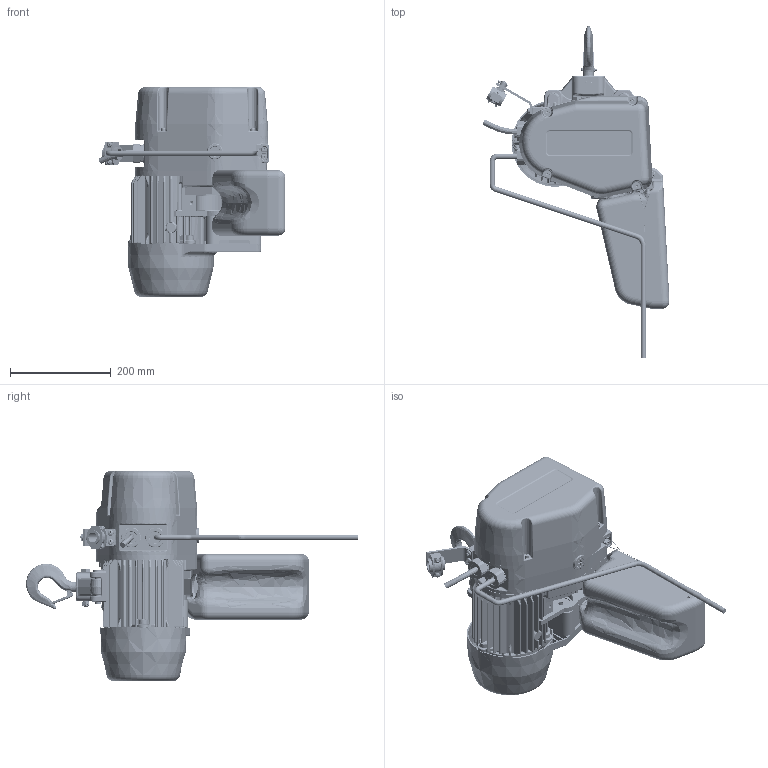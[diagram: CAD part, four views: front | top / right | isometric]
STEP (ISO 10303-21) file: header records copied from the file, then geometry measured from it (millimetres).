
FILE_DESCRIPTION (( 'STEP AP214' ), '1' );
FILE_NAME ('EQ005.STEP', '2025-06-20T19:54:28', ( '' ), ( '' ), 'SwSTEP 2.0', 'SolidWorks 2024', '' );
FILE_SCHEMA (( 'AUTOMOTIVE_DESIGN' ));
Length unit declared in the file: millimetre
Products named in the file (45): J1BG10601010_M6X10X10; ER1BS95412_ﾃﾞﾌｫﾙﾄ; ER1BS9135; Pwer suply cable(ECH)-X_ﾃﾞﾌｫﾙﾄ; body500kg-2012-0903_コネクター引っかかり対策; EQ1CI9401_ﾃﾞﾌｫﾙﾄ; E4YS005-98222-0-HSM_ﾃﾞﾌｫﾙﾄ; E2YS005-9116; EQ1CI90281_1°; ER2CS90021-0_ﾃﾞﾌｫﾙﾄ; chain backet2011018_ﾃﾞﾌｫﾙﾄ; EQ1CI1013_ウエフック向き変更; EQ1CI2104_ﾃﾞﾌｫﾙﾄ; E2YS005-9109; CableHolder-X_ﾃﾞﾌｫﾙﾄ; ER2CS90011-æfì▐-Æbæó_鋳造; 9012708_9012708; J1PW01-025018_J1PW01-025018; E3ES002-95412-2-HSM_ﾃﾞﾌｫﾙﾄ; J1AA4-5002020_J1AA4-5002020; ER1BS9003; ECP5924AD1-0-X_ﾃﾞﾌｫﾙﾄ; pan cross head_am_B18.6.7M - M6 x 1.0 x 16 Type I Cross Recessed PHMS --16N; torque nut 01_iso_ISO 7040-M8-N; J1BE1-0809028_B18.3.1M - 8 x 1.25 x 90 Hex SHCS -- 28CHX; N6TA100E91251-0_ﾃﾞﾌｫﾙﾄ; ECP5924AQ1_ﾃﾞﾌｫﾙﾄ; ECP6912AA1-1-X_ﾃﾞﾌｫﾙﾄ; code (ECH)-X__500_ﾃﾞﾌｫﾙﾄ; toothed lock washer_b_jis_J1WH012-10050; E5FE003S9111; Push bottan_ﾃﾞﾌｫﾙﾄ; ECP5924AB1-0-X_ﾃﾞﾌｫﾙﾄ; E4YS005-28223-0-HSM_ﾃﾞﾌｫﾙﾄ; ISO 1234-1.6x8-C_ISO 1234-1.6x8-C; stop(ECH)-X__500_ﾃﾞﾌｫﾙﾄ; C2BA005-90744; hexagon socket head cap screw_jis_JIS B 1176 M5 x 10 (10) --N; EQ005; EQ1CI9110_コネクター引っかかり対策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
Assembly tree (64 placements, depth 3):
  EQ005
    body500kg-2012-0903_コネクター引っかかり対策
    CableHolder-X_ﾃﾞﾌｫﾙﾄ  x2
      ECP5924AB1-0-X_ﾃﾞﾌｫﾙﾄ
      ECP5924AQ1_ﾃﾞﾌｫﾙﾄ
      ECP5924AA1-0-X_ﾃﾞﾌｫﾙﾄ
      ECP5924AD1-0-X_ﾃﾞﾌｫﾙﾄ
      ECP6912AA1-1-X_ﾃﾞﾌｫﾙﾄ
    EQ1CI9110_コネクター引っかかり対策
    Pwer suply cable(ECH)-X_ﾃﾞﾌｫﾙﾄ
    Push bottan_ﾃﾞﾌｫﾙﾄ
      code (ECH)-X__500_ﾃﾞﾌｫﾙﾄ
      stop(ECH)-X__500_ﾃﾞﾌｫﾙﾄ
    EQ1CI9107_ﾃﾞﾌｫﾙﾄ
    EQ1CI2104_ﾃﾞﾌｫﾙﾄ
    chain backet2011018_ﾃﾞﾌｫﾙﾄ
      EQ1CI9401_ﾃﾞﾌｫﾙﾄ
    ER1BS95412_ﾃﾞﾌｫﾙﾄ
    E4YS005-28223-0-HSM_ﾃﾞﾌｫﾙﾄ
      E4YS005-98222-0-HSM_ﾃﾞﾌｫﾙﾄ
      E3ES002-95412-2-HSM_ﾃﾞﾌｫﾙﾄ
      9012708_9012708  x2
      N6TA100E91251-0_ﾃﾞﾌｫﾙﾄ
      J1AA4-5002020_J1AA4-5002020  x2
      ISO 1234-1.6x8-C_ISO 1234-1.6x8-C
    EQ1CI1013_ウエフック向き変更
      EQ1CI90281_1°
      ER2CS90011-æfì▐-Æbæó_鋳造
      ER2CS90021-0_ﾃﾞﾌｫﾙﾄ
      ER1CS9032
      J1NL001-10100_J1NL001-10100
      ER1BS9003
      C2BA005-90744
      J1PW01-025018_J1PW01-025018
    toothed lock washer_b_jis_J1WH012-10050  x8
    hexagon socket head cap screw_jis_JIS B 1176 M5 x 10 (10) --N  x8
    E2YS005-9116
    ER1BS9135
    E2YS005-9109
    E5FE003S9111
    EQ1CI9121  x2
    J1BE1-0809028_B18.3.1M - 8 x 1.25 x 90 Hex SHCS -- 28CHX
    torque nut 01_iso_ISO 7040-M8-N
    J1BG10601010_M6X10X10  x2
    pan cross head_am_B18.6.7M - M6 x 1.0 x 16 Type I Cross Recessed PHMS --16N  x2
Bounding box: 370.69 x 658.58 x 417 mm (x, y, z)
Volume: 4004759.6 mm3; surface area: 1635816.9 mm2
Topology: 64 solids, 64 shells, 7691 faces, 19069 edges, 11427 vertices
Faces by surface type: plane 2256, cylinder 2162, bspline 1422, cone 951, torus 546, sphere 354
Entity records: 324607 total; most frequent: CARTESIAN_POINT 118366, ORIENTED_EDGE 33676, DIRECTION 29811, EDGE_CURVE 16838, AXIS2_PLACEMENT_3D 11752, VERTEX_POINT 10184, EDGE_LOOP 7326, ADVANCED_FACE 6936
